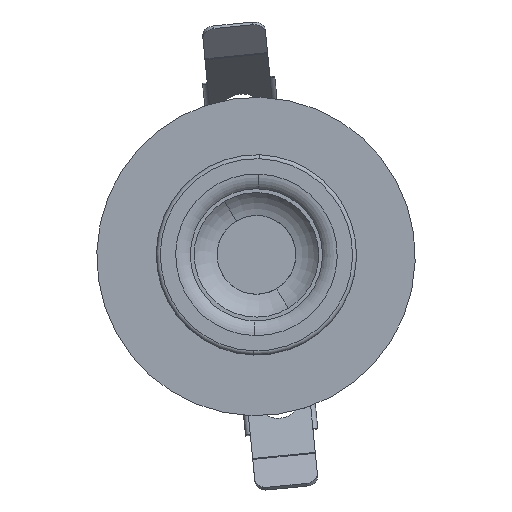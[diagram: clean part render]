
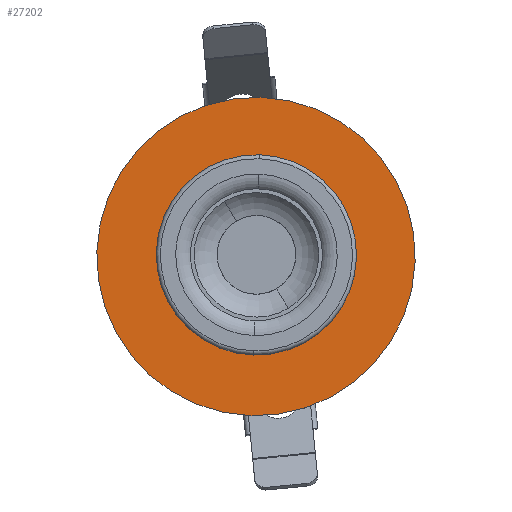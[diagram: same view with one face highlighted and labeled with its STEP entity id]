
A CAD part, top view. The second image highlights one B-rep face of the part: STEP entity #27202.
In plain terms, the highlighted planar face has unit normal (0, 0, 1).
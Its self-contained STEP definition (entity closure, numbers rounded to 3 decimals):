
#391 = DIRECTION ( 'NONE',  ( 0., 0., -1. ) ) ;
#1163 = EDGE_LOOP ( 'NONE', ( #7465, #17109 ) ) ;
#1671 = EDGE_CURVE ( 'NONE', #19417, #7413, #11403, .T. ) ;
#2354 = ORIENTED_EDGE ( 'NONE', *, *, #1671, .T. ) ;
#2806 = FACE_BOUND ( 'NONE', #1163, .T. ) ;
#3947 = CARTESIAN_POINT ( 'NONE',  ( 0., 0., 1. ) ) ;
#4786 = CARTESIAN_POINT ( 'NONE',  ( 4.2, 0., 1. ) ) ;
#5784 = DIRECTION ( 'NONE',  ( 1., 0., 0. ) ) ;
#5788 = DIRECTION ( 'NONE',  ( 0., 0., 1. ) ) ;
#7413 = VERTEX_POINT ( 'NONE', #11429 ) ;
#7465 = ORIENTED_EDGE ( 'NONE', *, *, #21258, .T. ) ;
#7751 = EDGE_CURVE ( 'NONE', #23571, #31435, #25980, .T. ) ;
#8286 = FACE_OUTER_BOUND ( 'NONE', #25412, .T. ) ;
#8765 = AXIS2_PLACEMENT_3D ( 'NONE', #3947, #31690, #26428 ) ;
#10344 = CIRCLE ( 'NONE', #22464, 4.2 ) ;
#10598 = CIRCLE ( 'NONE', #12177, 40. ) ;
#10761 = CARTESIAN_POINT ( 'NONE',  ( 40., 0., 1. ) ) ;
#10977 = AXIS2_PLACEMENT_3D ( 'NONE', #10761, #5788, #25285 ) ;
#11403 = CIRCLE ( 'NONE', #8765, 40. ) ;
#11429 = CARTESIAN_POINT ( 'NONE',  ( 40., 0., 1. ) ) ;
#12177 = AXIS2_PLACEMENT_3D ( 'NONE', #25153, #28430, #5784 ) ;
#12523 = DIRECTION ( 'NONE',  ( 0., 0., -1. ) ) ;
#12605 = CARTESIAN_POINT ( 'NONE',  ( -4.2, 0., 1. ) ) ;
#14720 = EDGE_CURVE ( 'NONE', #7413, #19417, #10598, .T. ) ;
#14985 = CARTESIAN_POINT ( 'NONE',  ( 0., 0., 1. ) ) ;
#17109 = ORIENTED_EDGE ( 'NONE', *, *, #7751, .T. ) ;
#17276 = ORIENTED_EDGE ( 'NONE', *, *, #14720, .T. ) ;
#18315 = PLANE ( 'NONE',  #10977 ) ;
#19417 = VERTEX_POINT ( 'NONE', #27665 ) ;
#21258 = EDGE_CURVE ( 'NONE', #31435, #23571, #10344, .T. ) ;
#21748 = AXIS2_PLACEMENT_3D ( 'NONE', #23010, #391, #22531 ) ;
#22464 = AXIS2_PLACEMENT_3D ( 'NONE', #14985, #12523, #32473 ) ;
#22531 = DIRECTION ( 'NONE',  ( 1., 0., 0. ) ) ;
#23010 = CARTESIAN_POINT ( 'NONE',  ( 0., 0., 1. ) ) ;
#23571 = VERTEX_POINT ( 'NONE', #12605 ) ;
#25153 = CARTESIAN_POINT ( 'NONE',  ( 0., 0., 1. ) ) ;
#25285 = DIRECTION ( 'NONE',  ( 1., 0., 0. ) ) ;
#25412 = EDGE_LOOP ( 'NONE', ( #2354, #17276 ) ) ;
#25980 = CIRCLE ( 'NONE', #21748, 4.2 ) ;
#26428 = DIRECTION ( 'NONE',  ( 1., 0., 0. ) ) ;
#27202 = ADVANCED_FACE ( 'NONE', ( #2806, #8286 ), #18315, .T. ) ;
#27665 = CARTESIAN_POINT ( 'NONE',  ( -40., 0., 1. ) ) ;
#28430 = DIRECTION ( 'NONE',  ( 0., 0., 1. ) ) ;
#31435 = VERTEX_POINT ( 'NONE', #4786 ) ;
#31690 = DIRECTION ( 'NONE',  ( 0., 0., 1. ) ) ;
#32473 = DIRECTION ( 'NONE',  ( 1., 0., 0. ) ) ;
